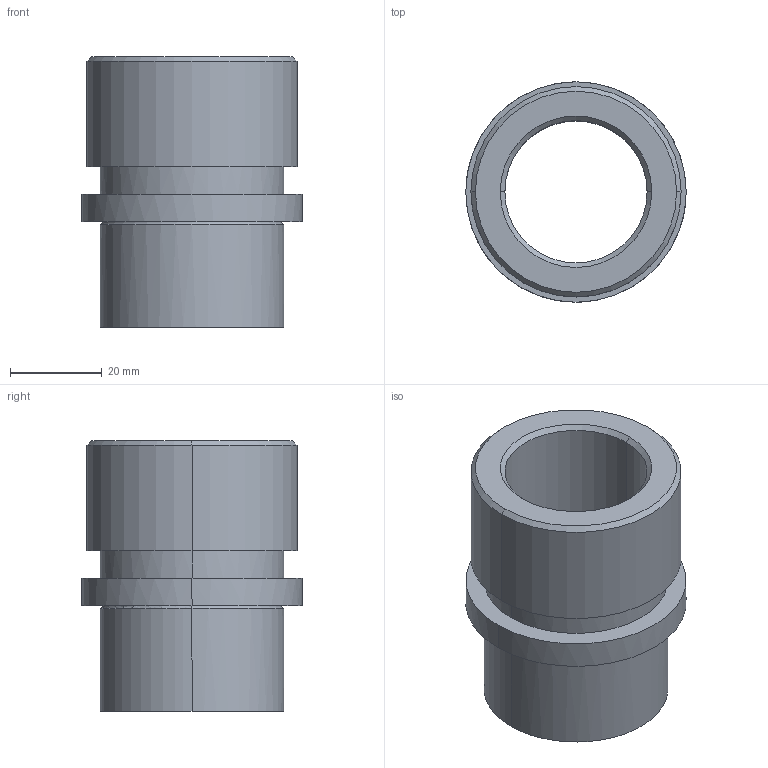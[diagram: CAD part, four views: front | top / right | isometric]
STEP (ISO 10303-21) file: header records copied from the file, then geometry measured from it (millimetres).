
FILE_DESCRIPTION(('CATIA V5 STEP Exchange'),'2;1');
FILE_NAME('C:\Users\Utente\Desktop\IO LAVORO\3D X SITO CF\X SITO\735\735-25.stp','2021-01-16T19:26:14+00:00',('none'),('none'),'CATIA Version 5 Release 20 GA (IN-10)','CATIA V5 STEP AP203','none');
FILE_SCHEMA(('CONFIG_CONTROL_DESIGN'));
Length unit declared in the file: millimetre
Products named in the file (1): 735-25
Assembly tree (1 placements, depth 2):
  735-25
    #58
Bounding box: 48 x 48 x 59 mm (x, y, z)
Volume: 42031.6 mm3; surface area: 16643.5 mm2
Topology: 1 solids, 1 shells, 25 faces, 50 edges, 30 vertices
Faces by surface type: cylinder 10, cone 6, plane 5, torus 4
Entity records: 851 total; most frequent: CARTESIAN_POINT 282, ORIENTED_EDGE 100, DIRECTION 96, AXIS2_PLACEMENT_3D 53, EDGE_CURVE 50, EDGE_LOOP 30, VERTEX_POINT 30, CIRCLE 26
